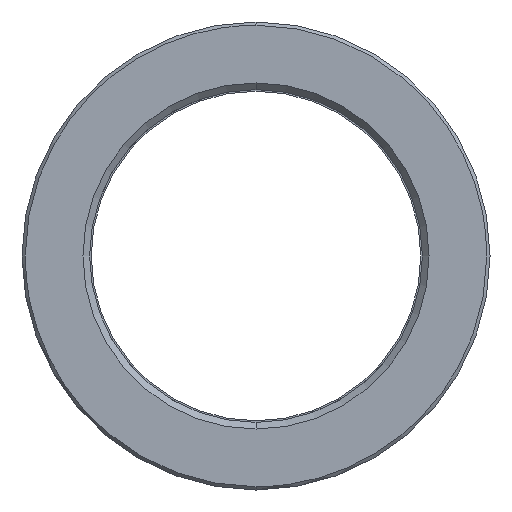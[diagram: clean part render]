
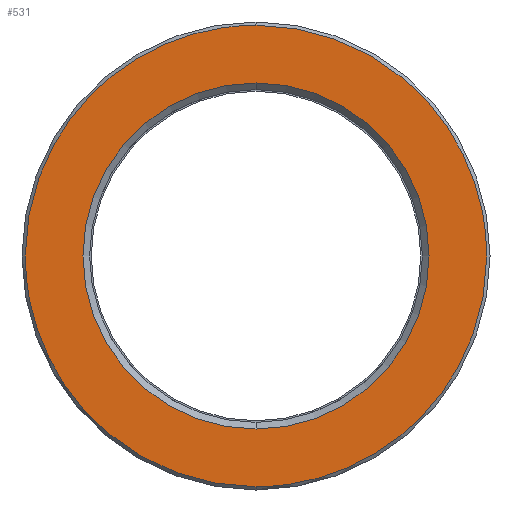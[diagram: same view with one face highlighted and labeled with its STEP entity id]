
A CAD part, left-side view. The second image highlights one B-rep face of the part: STEP entity #531.
In plain terms, the highlighted planar face has unit normal (-1, 0, 0).
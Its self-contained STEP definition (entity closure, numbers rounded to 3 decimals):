
#311=CARTESIAN_POINT('Axis2P3D Location',(0.,0.,0.)) ;
#315=CARTESIAN_POINT('Vertex',(0.,26.25,0.)) ;
#317=CARTESIAN_POINT('Vertex',(0.,0.,26.25)) ;
#320=CARTESIAN_POINT('Axis2P3D Location',(0.,0.,0.)) ;
#324=CARTESIAN_POINT('Vertex',(0.,0.,-26.25)) ;
#351=CARTESIAN_POINT('Axis2P3D Location',(0.,0.,0.)) ;
#355=CARTESIAN_POINT('Vertex',(0.,-26.25,0.)) ;
#358=CARTESIAN_POINT('Axis2P3D Location',(0.,0.,0.)) ;
#438=CARTESIAN_POINT('Axis2P3D Location',(0.,35.,0.)) ;
#444=CARTESIAN_POINT('Control Point',(0.,0.,-35.)) ;
#445=CARTESIAN_POINT('Control Point',(0.,1.757,-35.)) ;
#446=CARTESIAN_POINT('Control Point',(0.,3.514,-34.89)) ;
#447=CARTESIAN_POINT('Control Point',(0.,5.261,-34.669)) ;
#448=CARTESIAN_POINT('Control Point',(0.,10.128,-33.742)) ;
#449=CARTESIAN_POINT('Control Point',(0.,14.778,-31.968)) ;
#450=CARTESIAN_POINT('Control Point',(0.,17.633,-30.487)) ;
#451=CARTESIAN_POINT('Control Point',(0.,22.955,-26.9)) ;
#452=CARTESIAN_POINT('Control Point',(0.,27.334,-22.209)) ;
#453=CARTESIAN_POINT('Control Point',(0.,29.246,-19.623)) ;
#454=CARTESIAN_POINT('Control Point',(0.,32.284,-14.345)) ;
#455=CARTESIAN_POINT('Control Point',(0.,34.122,-8.548)) ;
#456=CARTESIAN_POINT('Control Point',(0.,34.707,-5.725)) ;
#457=CARTESIAN_POINT('Control Point',(0.,35.,-2.863)) ;
#458=CARTESIAN_POINT('Control Point',(0.,35.,0.)) ;
#459=CARTESIAN_POINT('Vertex',(0.,0.,-35.)) ;
#461=CARTESIAN_POINT('Vertex',(0.,35.,0.)) ;
#465=CARTESIAN_POINT('Control Point',(0.,-35.,0.)) ;
#466=CARTESIAN_POINT('Control Point',(0.,-35.,-3.188)) ;
#467=CARTESIAN_POINT('Control Point',(0.,-34.637,-6.376)) ;
#468=CARTESIAN_POINT('Control Point',(0.,-33.911,-9.509)) ;
#469=CARTESIAN_POINT('Control Point',(0.,-31.758,-15.555)) ;
#470=CARTESIAN_POINT('Control Point',(0.,-28.302,-20.962)) ;
#471=CARTESIAN_POINT('Control Point',(0.,-26.272,-23.456)) ;
#472=CARTESIAN_POINT('Control Point',(0.,-21.679,-27.938)) ;
#473=CARTESIAN_POINT('Control Point',(0.,-16.197,-31.274)) ;
#474=CARTESIAN_POINT('Control Point',(0.,-13.276,-32.621)) ;
#475=CARTESIAN_POINT('Control Point',(0.,-8.86,-34.074)) ;
#476=CARTESIAN_POINT('Control Point',(0.,-4.289,-34.781)) ;
#477=CARTESIAN_POINT('Control Point',(0.,-2.863,-34.927)) ;
#478=CARTESIAN_POINT('Control Point',(0.,-1.431,-35.)) ;
#479=CARTESIAN_POINT('Control Point',(0.,0.,-35.)) ;
#480=CARTESIAN_POINT('Vertex',(0.,-35.,0.)) ;
#484=CARTESIAN_POINT('Control Point',(0.,0.,35.)) ;
#485=CARTESIAN_POINT('Control Point',(0.,-1.757,35.)) ;
#486=CARTESIAN_POINT('Control Point',(0.,-3.514,34.89)) ;
#487=CARTESIAN_POINT('Control Point',(0.,-5.261,34.669)) ;
#488=CARTESIAN_POINT('Control Point',(0.,-10.128,33.742)) ;
#489=CARTESIAN_POINT('Control Point',(0.,-14.778,31.968)) ;
#490=CARTESIAN_POINT('Control Point',(0.,-17.633,30.487)) ;
#491=CARTESIAN_POINT('Control Point',(0.,-22.955,26.9)) ;
#492=CARTESIAN_POINT('Control Point',(0.,-27.334,22.209)) ;
#493=CARTESIAN_POINT('Control Point',(0.,-29.246,19.623)) ;
#494=CARTESIAN_POINT('Control Point',(0.,-32.284,14.345)) ;
#495=CARTESIAN_POINT('Control Point',(0.,-34.122,8.548)) ;
#496=CARTESIAN_POINT('Control Point',(0.,-34.707,5.725)) ;
#497=CARTESIAN_POINT('Control Point',(0.,-35.,2.863)) ;
#498=CARTESIAN_POINT('Control Point',(0.,-35.,0.)) ;
#499=CARTESIAN_POINT('Vertex',(0.,0.,35.)) ;
#503=CARTESIAN_POINT('Control Point',(0.,35.,0.)) ;
#504=CARTESIAN_POINT('Control Point',(0.,35.,3.188)) ;
#505=CARTESIAN_POINT('Control Point',(0.,34.637,6.376)) ;
#506=CARTESIAN_POINT('Control Point',(0.,33.911,9.509)) ;
#507=CARTESIAN_POINT('Control Point',(0.,31.758,15.555)) ;
#508=CARTESIAN_POINT('Control Point',(0.,28.302,20.962)) ;
#509=CARTESIAN_POINT('Control Point',(0.,26.272,23.456)) ;
#510=CARTESIAN_POINT('Control Point',(0.,21.679,27.938)) ;
#511=CARTESIAN_POINT('Control Point',(0.,16.197,31.274)) ;
#512=CARTESIAN_POINT('Control Point',(0.,13.276,32.621)) ;
#513=CARTESIAN_POINT('Control Point',(0.,8.86,34.074)) ;
#514=CARTESIAN_POINT('Control Point',(0.,4.289,34.781)) ;
#515=CARTESIAN_POINT('Control Point',(0.,2.863,34.927)) ;
#516=CARTESIAN_POINT('Control Point',(0.,1.431,35.)) ;
#517=CARTESIAN_POINT('Control Point',(0.,0.,35.)) ;
#312=DIRECTION('Axis2P3D Direction',(-1.,0.,0.)) ;
#321=DIRECTION('Axis2P3D Direction',(-1.,0.,0.)) ;
#352=DIRECTION('Axis2P3D Direction',(-1.,0.,0.)) ;
#359=DIRECTION('Axis2P3D Direction',(-1.,0.,0.)) ;
#439=DIRECTION('Axis2P3D Direction',(-1.,0.,0.)) ;
#440=DIRECTION('Axis2P3D XDirection',(0.,0.,1.)) ;
#313=AXIS2_PLACEMENT_3D('Circle Axis2P3D',#311,#312,$) ;
#322=AXIS2_PLACEMENT_3D('Circle Axis2P3D',#320,#321,$) ;
#353=AXIS2_PLACEMENT_3D('Circle Axis2P3D',#351,#352,$) ;
#360=AXIS2_PLACEMENT_3D('Circle Axis2P3D',#358,#359,$) ;
#441=AXIS2_PLACEMENT_3D('Plane Axis2P3D',#438,#439,#440) ;
#520=ORIENTED_EDGE('',*,*,#463,.F.) ;
#521=ORIENTED_EDGE('',*,*,#482,.F.) ;
#522=ORIENTED_EDGE('',*,*,#501,.F.) ;
#523=ORIENTED_EDGE('',*,*,#518,.F.) ;
#526=ORIENTED_EDGE('',*,*,#319,.T.) ;
#527=ORIENTED_EDGE('',*,*,#362,.T.) ;
#528=ORIENTED_EDGE('',*,*,#357,.T.) ;
#529=ORIENTED_EDGE('',*,*,#326,.T.) ;
#530=FACE_BOUND('',#525,.T.) ;
#531=ADVANCED_FACE('553-50X246',(#524,#530),#442,.T.) ;
#443=B_SPLINE_CURVE_WITH_KNOTS('',5,(#444,#445,#446,#447,#448,#449,#450,#451,#452,#453,#454,#455,#456,#457,#458),.UNSPECIFIED.,.F.,.U.,(6,3,3,3,6),(77.75,90.172,112.716,135.259,155.5),.UNSPECIFIED.) ;
#464=B_SPLINE_CURVE_WITH_KNOTS('',5,(#465,#466,#467,#468,#469,#470,#471,#472,#473,#474,#475,#476,#477,#478,#479),.UNSPECIFIED.,.F.,.U.,(6,3,3,3,6),(0.,22.543,45.086,67.629,77.75),.UNSPECIFIED.) ;
#483=B_SPLINE_CURVE_WITH_KNOTS('',5,(#484,#485,#486,#487,#488,#489,#490,#491,#492,#493,#494,#495,#496,#497,#498),.UNSPECIFIED.,.F.,.U.,(6,3,3,3,6),(77.75,90.172,112.716,135.259,155.5),.UNSPECIFIED.) ;
#502=B_SPLINE_CURVE_WITH_KNOTS('',5,(#503,#504,#505,#506,#507,#508,#509,#510,#511,#512,#513,#514,#515,#516,#517),.UNSPECIFIED.,.F.,.U.,(6,3,3,3,6),(0.,22.543,45.086,67.629,77.75),.UNSPECIFIED.) ;
#314=CIRCLE('generated circle',#313,26.25) ;
#323=CIRCLE('generated circle',#322,26.25) ;
#354=CIRCLE('generated circle',#353,26.25) ;
#361=CIRCLE('generated circle',#360,26.25) ;
#319=EDGE_CURVE('',#316,#318,#314,.F.) ;
#326=EDGE_CURVE('',#325,#316,#323,.F.) ;
#357=EDGE_CURVE('',#356,#325,#354,.F.) ;
#362=EDGE_CURVE('',#318,#356,#361,.F.) ;
#463=EDGE_CURVE('',#460,#462,#443,.T.) ;
#482=EDGE_CURVE('',#481,#460,#464,.T.) ;
#501=EDGE_CURVE('',#500,#481,#483,.T.) ;
#518=EDGE_CURVE('',#462,#500,#502,.T.) ;
#519=EDGE_LOOP('',(#520,#521,#522,#523)) ;
#525=EDGE_LOOP('',(#526,#527,#528,#529)) ;
#524=FACE_OUTER_BOUND('',#519,.T.) ;
#442=PLANE('Plane',#441) ;
#316=VERTEX_POINT('',#315) ;
#318=VERTEX_POINT('',#317) ;
#325=VERTEX_POINT('',#324) ;
#356=VERTEX_POINT('',#355) ;
#460=VERTEX_POINT('',#459) ;
#462=VERTEX_POINT('',#461) ;
#481=VERTEX_POINT('',#480) ;
#500=VERTEX_POINT('',#499) ;
